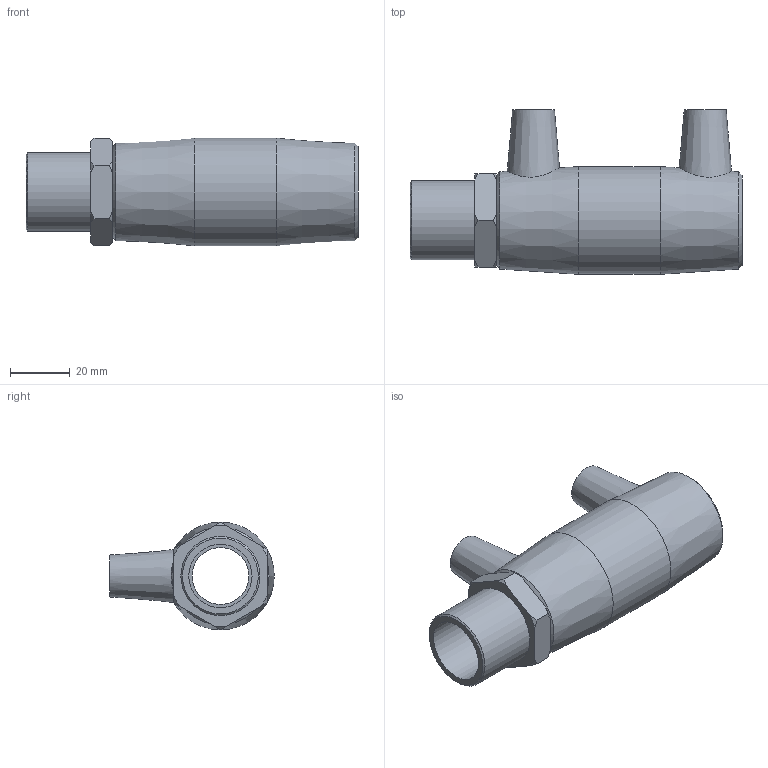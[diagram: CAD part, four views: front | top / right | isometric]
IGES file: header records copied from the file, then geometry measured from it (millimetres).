
Global section: file name: 492104025007.ipt; native system: Autodesk Inventor 2015; preprocessor: unknown; author: KIM; date: 20200202.122249; units: millimetre
Bounding box: 111 x 55 x 36 mm (x, y, z)
Volume: 60153.8 mm3; surface area: 24895.4 mm2
Topology: 1 solids, 2 shells, 54 faces, 129 edges, 88 vertices
Faces by surface type: plane 21, cone 19, revolution 8, cylinder 6
Full cylindrical faces by diameter (mm): 4 x2, 25 x2, 26.441 x1, 36 x1
